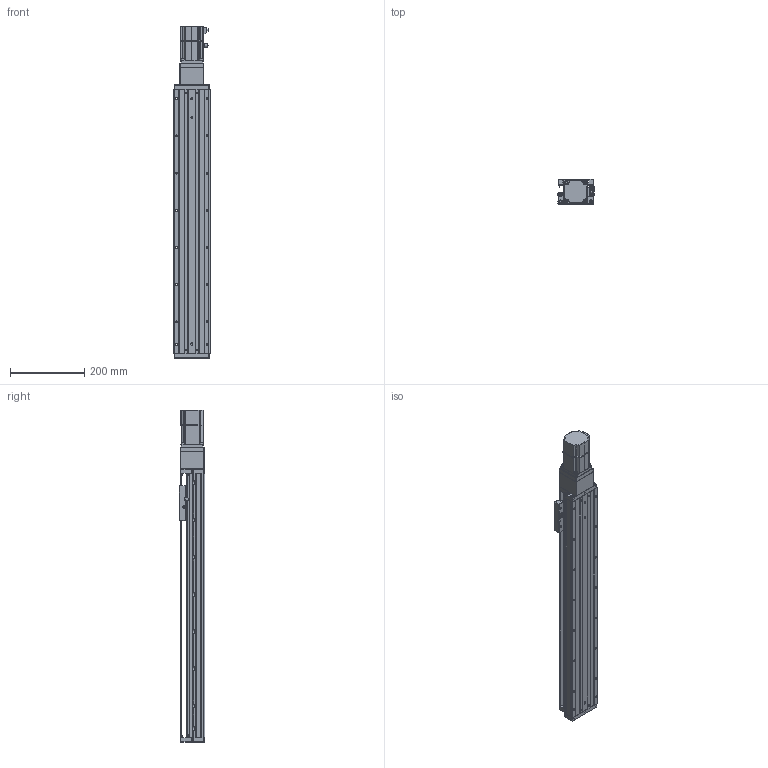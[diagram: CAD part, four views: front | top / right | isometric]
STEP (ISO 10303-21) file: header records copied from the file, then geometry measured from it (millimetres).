
FILE_DESCRIPTION (( 'STEP AP203' ), '1' );
FILE_NAME ('KTHA100-550-BC-M20-C4L.step', '2022-04-26T01:44:54', ( '微软用户' ), ( '微软中国' ), 'SwSTEP 2.0', 'SolidWorks 2020', '' );
FILE_SCHEMA (( 'CONFIG_CONTROL_DESIGN' ));
Length unit declared in the file: millimetre
Products named in the file (18): CTHA86-006-1_CTHA86-006-2; KTHA100-005; GBT70.1 M5℅16; KTHA100-550-BC-M20-C4L; GB¨uT 70.2-M3¡Á5_M3¡Á6; CTHA60-016; EE_SX911P_R; GBT 70.3-M3℅6; CTHA60-017; _X2_4E0983F1_X0_200W_1; KTHA100-001_710; CTHA60-021; CTHA86-013; KTHA100-002; GBT77-2000 M3×3; CTHA86-027; KTHA100-004; GBT 70.1-M3℅6
Assembly tree (56 placements, depth 2):
  KTHA100-550-BC-M20-C4L
    KTHA100-001_710
    KTHA100-002
    KTHA100-004
    KTHA100-005
    GB¨uT 70.2-M3¡Á5_M3¡Á6  x6
    EE_SX911P_R  x3
    CTHA60-017  x3
    CTHA60-021  x2
    GBT77-2000 M3×3  x6
    GBT 70.1-M3℅6  x6
    GBT70.1 M5℅16  x14
    CTHA60-016  x2
    GBT 70.3-M3℅6  x6
    _X2_4E0983F1_X0_200W_1
    CTHA86-013
    CTHA86-027
    CTHA86-006-1_CTHA86-006-2
Bounding box: 98.82 x 68 x 892.5 mm (x, y, z)
Volume: 3346679.1 mm3; surface area: 562948 mm2
Topology: 59 solids, 59 shells, 2407 faces, 5744 edges, 3544 vertices
Faces by surface type: plane 1227, cylinder 661, cone 330, torus 104, bspline 69, sphere 16
Entity records: 41598 total; most frequent: CARTESIAN_POINT 7975, DIRECTION 6549, ORIENTED_EDGE 6256, EDGE_CURVE 3128, AXIS2_PLACEMENT_3D 2290, LINE 1969, VECTOR 1969, VERTEX_POINT 1962
